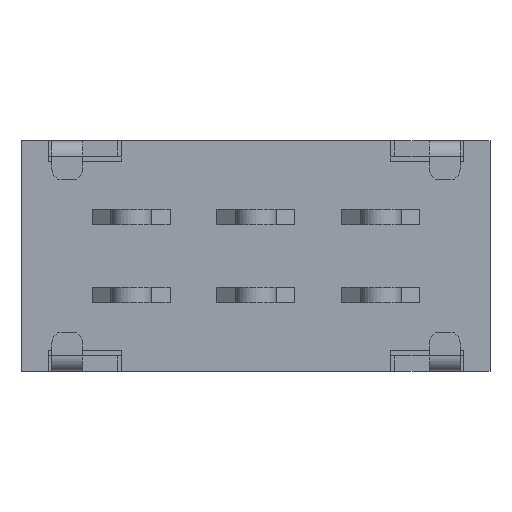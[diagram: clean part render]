
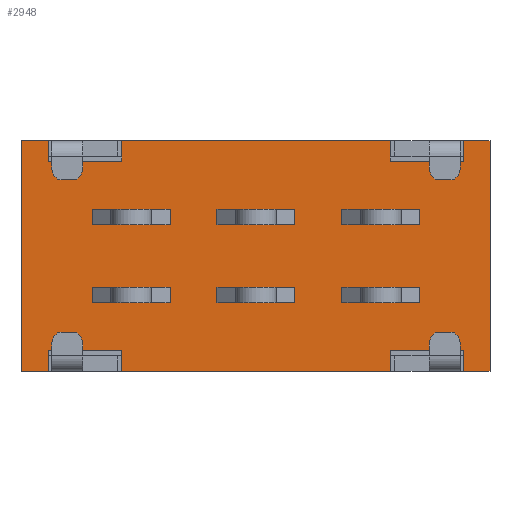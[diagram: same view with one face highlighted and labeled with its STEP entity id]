
A CAD part, front view. The second image highlights one B-rep face of the part: STEP entity #2948.
In plain terms, the highlighted planar face has unit normal (0, -1, 0).
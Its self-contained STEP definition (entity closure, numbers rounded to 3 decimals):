
#2328=DIRECTION('',(0.,0.,1.));
#2329=VECTOR('',#2328,7.4);
#2330=CARTESIAN_POINT('',(-7.5,-7.,-3.7));
#2331=LINE('',#2330,#2329);
#2332=DIRECTION('',(-1.,0.,0.));
#2333=VECTOR('',#2332,0.838);
#2334=CARTESIAN_POINT('',(-6.662,-7.,3.7));
#2335=LINE('',#2334,#2333);
#2336=DIRECTION('',(0.,0.,-1.));
#2337=VECTOR('',#2336,0.658);
#2338=CARTESIAN_POINT('',(-6.662,-7.,3.7));
#2339=LINE('',#2338,#2337);
#2340=DIRECTION('',(1.,0.,0.));
#2341=VECTOR('',#2340,2.366);
#2342=CARTESIAN_POINT('',(-6.662,-7.,3.042));
#2343=LINE('',#2342,#2341);
#2344=DIRECTION('',(0.,0.,-1.));
#2345=VECTOR('',#2344,0.658);
#2346=CARTESIAN_POINT('',(-4.296,-7.,3.7));
#2347=LINE('',#2346,#2345);
#2348=DIRECTION('',(-1.,0.,0.));
#2349=VECTOR('',#2348,8.591);
#2350=CARTESIAN_POINT('',(4.296,-7.,3.7));
#2351=LINE('',#2350,#2349);
#2352=DIRECTION('',(0.,0.,-1.));
#2353=VECTOR('',#2352,0.658);
#2354=CARTESIAN_POINT('',(4.296,-7.,3.7));
#2355=LINE('',#2354,#2353);
#2356=DIRECTION('',(1.,0.,0.));
#2357=VECTOR('',#2356,2.366);
#2358=CARTESIAN_POINT('',(4.296,-7.,3.042));
#2359=LINE('',#2358,#2357);
#2360=DIRECTION('',(0.,0.,-1.));
#2361=VECTOR('',#2360,0.658);
#2362=CARTESIAN_POINT('',(6.662,-7.,3.7));
#2363=LINE('',#2362,#2361);
#2364=DIRECTION('',(-1.,0.,0.));
#2365=VECTOR('',#2364,0.838);
#2366=CARTESIAN_POINT('',(7.5,-7.,3.7));
#2367=LINE('',#2366,#2365);
#2368=DIRECTION('',(0.,0.,1.));
#2369=VECTOR('',#2368,7.4);
#2370=CARTESIAN_POINT('',(7.5,-7.,-3.7));
#2371=LINE('',#2370,#2369);
#2372=DIRECTION('',(1.,0.,0.));
#2373=VECTOR('',#2372,0.838);
#2374=CARTESIAN_POINT('',(6.662,-7.,-3.7));
#2375=LINE('',#2374,#2373);
#2376=DIRECTION('',(0.,0.,1.));
#2377=VECTOR('',#2376,0.658);
#2378=CARTESIAN_POINT('',(6.662,-7.,-3.7));
#2379=LINE('',#2378,#2377);
#2380=DIRECTION('',(-1.,0.,0.));
#2381=VECTOR('',#2380,2.366);
#2382=CARTESIAN_POINT('',(6.662,-7.,-3.042));
#2383=LINE('',#2382,#2381);
#2384=DIRECTION('',(0.,0.,1.));
#2385=VECTOR('',#2384,0.658);
#2386=CARTESIAN_POINT('',(4.296,-7.,-3.7));
#2387=LINE('',#2386,#2385);
#2388=DIRECTION('',(1.,0.,0.));
#2389=VECTOR('',#2388,8.591);
#2390=CARTESIAN_POINT('',(-4.296,-7.,-3.7));
#2391=LINE('',#2390,#2389);
#2392=DIRECTION('',(0.,0.,1.));
#2393=VECTOR('',#2392,0.658);
#2394=CARTESIAN_POINT('',(-4.296,-7.,-3.7));
#2395=LINE('',#2394,#2393);
#2396=DIRECTION('',(-1.,0.,0.));
#2397=VECTOR('',#2396,2.366);
#2398=CARTESIAN_POINT('',(-4.296,-7.,-3.042));
#2399=LINE('',#2398,#2397);
#2400=DIRECTION('',(0.,0.,1.));
#2401=VECTOR('',#2400,0.658);
#2402=CARTESIAN_POINT('',(-6.662,-7.,-3.7));
#2403=LINE('',#2402,#2401);
#2404=DIRECTION('',(1.,0.,0.));
#2405=VECTOR('',#2404,0.838);
#2406=CARTESIAN_POINT('',(-7.5,-7.,-3.7));
#2407=LINE('',#2406,#2405);
#2428=CARTESIAN_POINT('',(4.296,-7.,3.7));
#2429=CARTESIAN_POINT('',(4.296,-7.,3.042));
#2430=VERTEX_POINT('',#2428);
#2431=VERTEX_POINT('',#2429);
#2432=CARTESIAN_POINT('',(6.662,-7.,3.042));
#2433=VERTEX_POINT('',#2432);
#2434=CARTESIAN_POINT('',(6.662,-7.,3.7));
#2435=VERTEX_POINT('',#2434);
#2436=CARTESIAN_POINT('',(6.662,-7.,-3.7));
#2437=CARTESIAN_POINT('',(6.662,-7.,-3.042));
#2438=VERTEX_POINT('',#2436);
#2439=VERTEX_POINT('',#2437);
#2440=CARTESIAN_POINT('',(4.296,-7.,-3.042));
#2441=VERTEX_POINT('',#2440);
#2442=CARTESIAN_POINT('',(4.296,-7.,-3.7));
#2443=VERTEX_POINT('',#2442);
#2444=CARTESIAN_POINT('',(-6.662,-7.,3.7));
#2445=CARTESIAN_POINT('',(-6.662,-7.,3.042));
#2446=VERTEX_POINT('',#2444);
#2447=VERTEX_POINT('',#2445);
#2448=CARTESIAN_POINT('',(-4.296,-7.,3.042));
#2449=VERTEX_POINT('',#2448);
#2450=CARTESIAN_POINT('',(-4.296,-7.,3.7));
#2451=VERTEX_POINT('',#2450);
#2452=CARTESIAN_POINT('',(-4.296,-7.,-3.7));
#2453=CARTESIAN_POINT('',(-4.296,-7.,-3.042));
#2454=VERTEX_POINT('',#2452);
#2455=VERTEX_POINT('',#2453);
#2456=CARTESIAN_POINT('',(-6.662,-7.,-3.042));
#2457=VERTEX_POINT('',#2456);
#2458=CARTESIAN_POINT('',(-6.662,-7.,-3.7));
#2459=VERTEX_POINT('',#2458);
#2492=CARTESIAN_POINT('',(-7.5,-7.,-3.7));
#2493=CARTESIAN_POINT('',(-7.5,-7.,3.7));
#2494=VERTEX_POINT('',#2492);
#2495=VERTEX_POINT('',#2493);
#2496=CARTESIAN_POINT('',(7.5,-7.,-3.7));
#2497=CARTESIAN_POINT('',(7.5,-7.,3.7));
#2498=VERTEX_POINT('',#2496);
#2499=VERTEX_POINT('',#2497);
#2921=CARTESIAN_POINT('',(0.,-7.,0.));
#2922=DIRECTION('',(0.,-1.,0.));
#2923=DIRECTION('',(1.,0.,0.));
#2924=AXIS2_PLACEMENT_3D('',#2921,#2922,#2923);
#2925=PLANE('',#2924);
#2926=ORIENTED_EDGE('',*,*,#2566,.T.);
#2927=ORIENTED_EDGE('',*,*,#2655,.F.);
#2928=ORIENTED_EDGE('',*,*,#2598,.T.);
#2929=ORIENTED_EDGE('',*,*,#2613,.T.);
#2930=ORIENTED_EDGE('',*,*,#2627,.F.);
#2931=ORIENTED_EDGE('',*,*,#2640,.F.);
#2932=ORIENTED_EDGE('',*,*,#2684,.T.);
#2933=ORIENTED_EDGE('',*,*,#2698,.T.);
#2934=ORIENTED_EDGE('',*,*,#2712,.F.);
#2935=ORIENTED_EDGE('',*,*,#2667,.F.);
#2936=ORIENTED_EDGE('',*,*,#2742,.F.);
#2937=ORIENTED_EDGE('',*,*,#2916,.F.);
#2938=ORIENTED_EDGE('',*,*,#2772,.T.);
#2939=ORIENTED_EDGE('',*,*,#2787,.T.);
#2940=ORIENTED_EDGE('',*,*,#2802,.F.);
#2941=ORIENTED_EDGE('',*,*,#2889,.F.);
#2942=ORIENTED_EDGE('',*,*,#2832,.T.);
#2943=ORIENTED_EDGE('',*,*,#2847,.T.);
#2944=ORIENTED_EDGE('',*,*,#2862,.F.);
#2945=ORIENTED_EDGE('',*,*,#2901,.F.);
#2946=EDGE_LOOP('',(#2926,#2927,#2928,#2929,#2930,#2931,#2932,#2933,#2934,#2935,
#2936,#2937,#2938,#2939,#2940,#2941,#2942,#2943,#2944,#2945));
#2947=FACE_OUTER_BOUND('',#2946,.F.);
#2566=EDGE_CURVE('',#2494,#2495,#2331,.T.);
#2598=EDGE_CURVE('',#2446,#2447,#2339,.T.);
#2613=EDGE_CURVE('',#2447,#2449,#2343,.T.);
#2627=EDGE_CURVE('',#2451,#2449,#2347,.T.);
#2640=EDGE_CURVE('',#2430,#2451,#2351,.T.);
#2655=EDGE_CURVE('',#2446,#2495,#2335,.T.);
#2667=EDGE_CURVE('',#2499,#2435,#2367,.T.);
#2684=EDGE_CURVE('',#2430,#2431,#2355,.T.);
#2698=EDGE_CURVE('',#2431,#2433,#2359,.T.);
#2712=EDGE_CURVE('',#2435,#2433,#2363,.T.);
#2742=EDGE_CURVE('',#2498,#2499,#2371,.T.);
#2772=EDGE_CURVE('',#2438,#2439,#2379,.T.);
#2787=EDGE_CURVE('',#2439,#2441,#2383,.T.);
#2802=EDGE_CURVE('',#2443,#2441,#2387,.T.);
#2832=EDGE_CURVE('',#2454,#2455,#2395,.T.);
#2847=EDGE_CURVE('',#2455,#2457,#2399,.T.);
#2862=EDGE_CURVE('',#2459,#2457,#2403,.T.);
#2889=EDGE_CURVE('',#2454,#2443,#2391,.T.);
#2901=EDGE_CURVE('',#2494,#2459,#2407,.T.);
#2916=EDGE_CURVE('',#2438,#2498,#2375,.T.);
#2948=ADVANCED_FACE('',(#2947),#2925,.T.);
